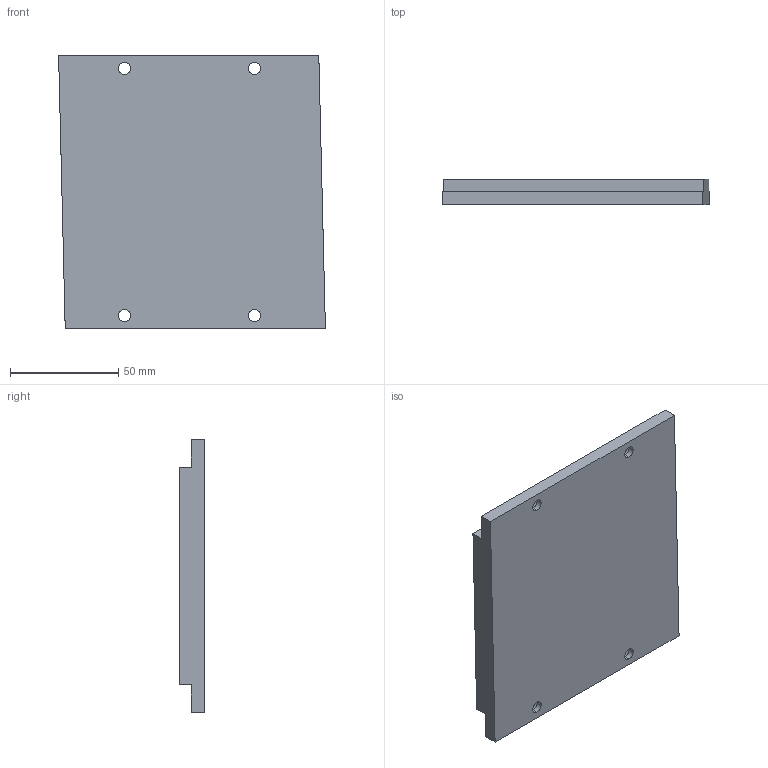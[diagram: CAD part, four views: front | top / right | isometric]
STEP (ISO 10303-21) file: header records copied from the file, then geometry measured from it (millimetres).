
FILE_DESCRIPTION (( 'STEP AP203' ), '1' );
FILE_NAME ('LMSACS1E.STEP', '2016-03-09T03:59:57', ( '' ), ( '' ), 'SwSTEP 2.0', 'SolidWorks 2010', '' );
FILE_SCHEMA (( 'CONFIG_CONTROL_DESIGN' ));
Length unit declared in the file: millimetre
Products named in the file (1): LMSACS1E
Bounding box: 123.04 x 11.7 x 126 mm (x, y, z)
Volume: 158258.8 mm3; surface area: 36143.2 mm2
Topology: 1 solids, 1 shells, 57 faces, 147 edges, 98 vertices
Faces by surface type: plane 30, cylinder 16, bspline 11
Entity records: 2616 total; most frequent: CARTESIAN_POINT 1170, ORIENTED_EDGE 294, DIRECTION 251, EDGE_CURVE 147, VERTEX_POINT 98, VECTOR 93, LINE 93, AXIS2_PLACEMENT_3D 79
